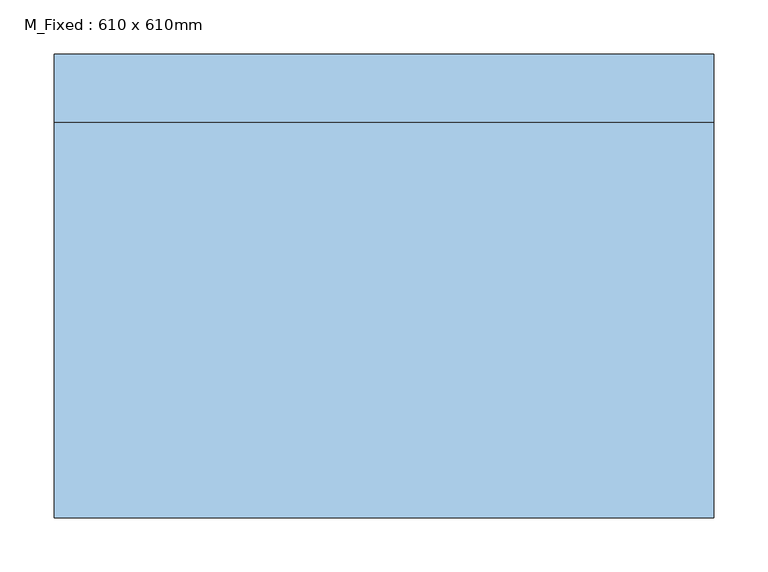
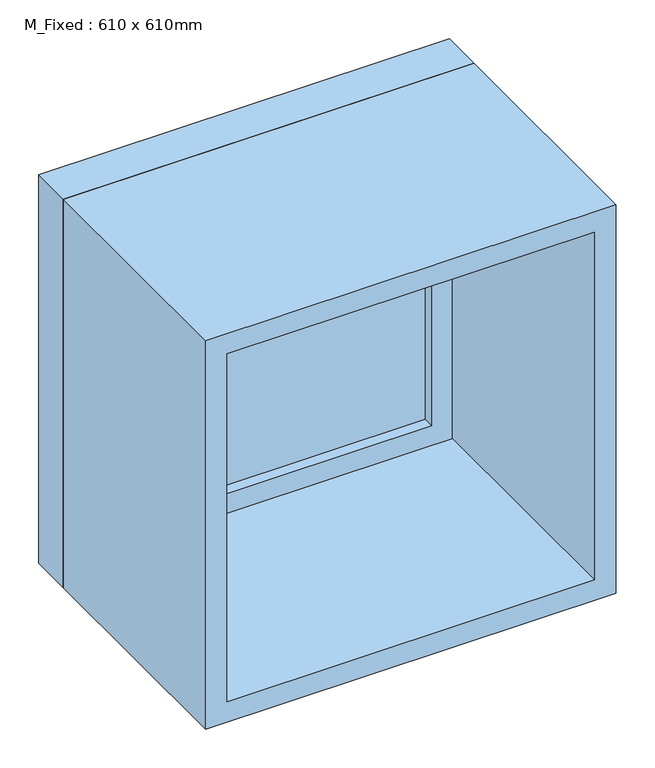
"""IFC4 building model written with IfcOpenShell, lengths in millimetres: window geometry, M_Fixed : 610 x 610mm."""

from ifc_helpers import new_model, si_unit, frame, origin, place, context, project, spatial, polyline, outline, extrude, source, transform, mapped, element, save


def m_fixed_610_x_610mm_e5dd5360(model_context):
    return source(origin(), model_context, "Body", "SweptSolid", [
        extrude(outline(polyline([(-242.0, 192.5), (242.0, 192.5), (242.0, 180.5), (-242.0, 180.5), (-242.0, 192.5)])), frame((0.0, 0.0, 978.0), z_axis=(0.0, 0.0, 1.0), x_axis=(1.0, 0.0, 0.0)), (0.0, 0.0, 1.0), 484.0),
        extrude(outline(polyline([(1506.0, -286.0), (934.0, -286.0), (934.0, 286.0), (1506.0, 286.0), (1506.0, -286.0)]), holes=[polyline([(1462.0, -242.0), (1462.0, 242.0), (978.0, 242.0), (978.0, -242.0), (1462.0, -242.0)])]), frame((0.0, 164.5, 0.0), z_axis=(0.0, 1.0, 0.0), x_axis=(0.0, 0.0, 1.0)), (0.0, 0.0, 1.0), 44.0),
        extrude(outline(polyline([(1525.0, -305.0), (915.0, -305.0), (915.0, 305.0), (1525.0, 305.0), (1525.0, -305.0)]), holes=[polyline([(1506.0, -286.0), (1506.0, 286.0), (934.0, 286.0), (934.0, -286.0), (1506.0, -286.0)])]), frame((0.0, 164.5, 0.0), z_axis=(0.0, 1.0, 0.0), x_axis=(0.0, 0.0, 1.0)), (0.0, 0.0, 1.0), 63.0),
        extrude(outline(polyline([(1525.0, -305.0), (915.0, -305.0), (915.0, 305.0), (1525.0, 305.0), (1525.0, -305.0)]), holes=[polyline([(1493.0, -273.0), (1493.0, 273.0), (947.0, 273.0), (947.0, -273.0), (1493.0, -273.0)])]), frame((0.0, -201.5, 0.0), z_axis=(0.0, 1.0, 0.0), x_axis=(0.0, 0.0, 1.0)), (0.0, 0.0, 1.0), 366.0),
    ])


if __name__ == "__main__":
    model = new_model("IFC4")
    model_context = context("Model", 3, world=origin())
    ifc_project = project(units=[si_unit("LENGTHUNIT", "METRE", prefix="MILLI")], contexts=[model_context])
    site = spatial("IfcSite", under=ifc_project)
    building = spatial("IfcBuilding", under=site)
    placement = place(None, origin())
    m_fixed_610_x_610mm_shape = m_fixed_610_x_610mm_e5dd5360(model_context)
    element("IfcWindow", 1, ObjectType="M_Fixed : 610 x 610mm", at=placement, inside=building, context=model_context, shape_type="MappedRepresentation", body=[
        mapped(m_fixed_610_x_610mm_shape, transform((0.0, 0.0, 0.0), x_axis=(1.0, 0.0, 0.0), y_axis=(0.0, 1.0, 0.0), z_axis=(0.0, 0.0, 1.0))),
    ])
    save(model, "model.ifc")
